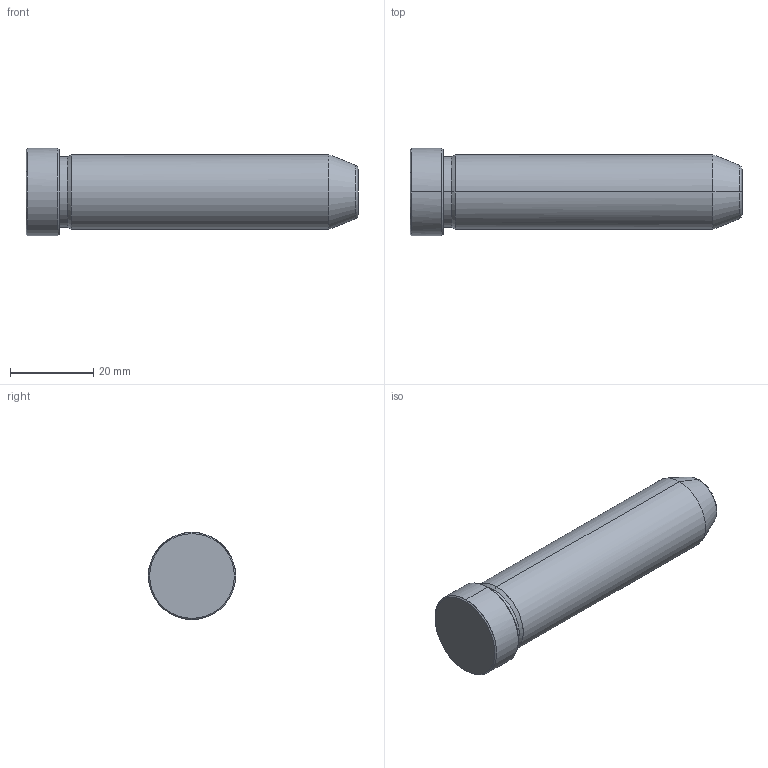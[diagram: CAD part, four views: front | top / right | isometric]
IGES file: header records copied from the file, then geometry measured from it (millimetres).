
Start section: START RECORD GO HERE.
Global section: file name: 549-18X80.igs; native system: DASSAULT SYSTEMES CATIA V5 R20 - www.3ds.com; preprocessor: CATIA Version 5 Release 20 ; author: Utente; organization: NB04-ASUS; date: 20211211.104352; units: millimetre
Bounding box: 80 x 21 x 21 mm (x, y, z)
Surface area: 5118.5 mm2 (no closed solid volume)
Topology: 0 solids, 0 shells, 19 faces, 112 edges, 112 vertices
Faces by surface type: revolution 16, plane 3
